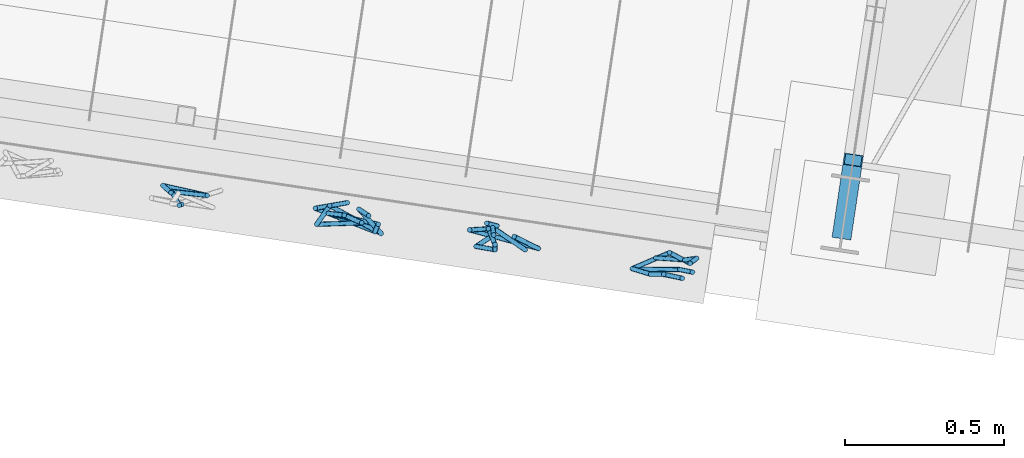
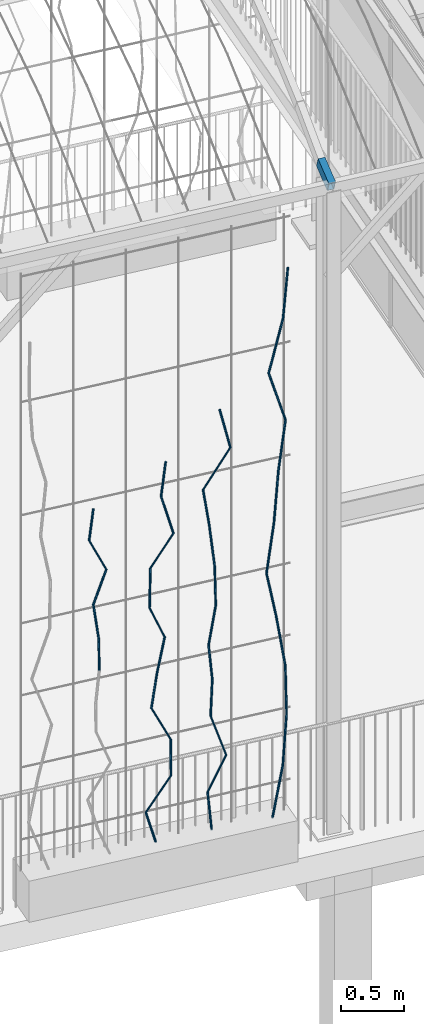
# One storey, part 109 of 143: 39 members, 2 elements without a shape of their own.
"""IFC4 building model written with IfcOpenShell, lengths in metres."""

from ifc_helpers import new_model, si_unit, direction, frame, origin_with_axes, place, context, subcontext, project, spatial, hollow_rectangle, circle, extrude, material, material_profile, profile_set, profile_usage, type_object, element, aggregate, save


model = new_model("IFC4")

# Units and contexts
model_context = context("Model", 3, precision=1e-05, world=origin_with_axes(), true_north=direction((0.0, 1.0)))
body_context = subcontext(model_context, "Body", "Model", "MODEL_VIEW")
ifc_project = project(units=[si_unit("VOLUMEUNIT", "CUBIC_METRE"), si_unit("LENGTHUNIT", "METRE"), si_unit("AREAUNIT", "SQUARE_METRE")], contexts=[model_context])

# Site, building, storey
site_placement = place(None, origin_with_axes())
site = spatial("IfcSite", under=ifc_project, at=site_placement, Name="Lares · Rua das Mercês · artigo 4771")
building_placement = place(site_placement, frame((15.0, 9.7, 15.8), z_axis=(0.0, 0.0, 1.0), x_axis=(0.989015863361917, -0.147809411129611, 0.0)))
building = spatial("IfcBuilding", under=site, at=building_placement, Name="Casa Sobreposta")
storey_placement = place(building_placement, origin_with_axes())
storey = spatial("IfcBuildingStorey", under=building, at=storey_placement, Name="00 · Habitação e estacionamento", Elevation=15.8)

# Assembly, member
assembly_1_placement = place(storey_placement, origin_with_axes())
assembly_1 = element("IfcElementAssembly", 1, at=assembly_1_placement, inside=storey, Name="Pérgola · prolongamento da estufa 6 m", ObjectType="PERGOLA_GREENHOUSE_EXTENSION", PredefinedType="USERDEFINED")
ifc_material_1 = material(Name="Aço pintado / Stahl lackiert", Category="steel")
ifc_material_profile_1 = material_profile(ifc_material_1, hollow_rectangle(XDim=0.06, YDim=0.1, WallThickness=0.004))
ifc_profile_set_1 = profile_set([ifc_material_profile_1], Name="RHS100x60x4")
ifc_profile_usage_1 = profile_usage(ifc_profile_set_1)
member_type_1 = type_object("IfcMemberType", Name="RHS100x60x4 / steel", PredefinedType="NOTDEFINED", material=ifc_profile_set_1)
member_1_placement = place(assembly_1_placement, frame((-3.0, -1.5, 6.23430000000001), z_axis=(0.0, 0.932991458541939, 0.35989851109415), x_axis=(1.0, 0.0, 0.0)))
member_1 = element("IfcMember", 2, at=member_1_placement, type_object=member_type_1, material=ifc_profile_usage_1, Name="Pérgola · arco contínuo com a estufa", context=body_context, shape_type="SweptSolid", body=[
    extrude(hollow_rectangle(XDim=0.06, YDim=0.1, WallThickness=0.004), origin_with_axes(), (0.0, 0.0, 1.0), 0.249032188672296),
])
aggregate(assembly_1, [member_1])

# Assembly, members
assembly_2_placement = place(storey_placement, origin_with_axes())
assembly_2 = element("IfcElementAssembly", 3, at=assembly_2_placement, inside=storey, Name="Fachada sul e pátio · estrutura e trepadeiras", ObjectType="LIVING_SHADE_TRELLIS", PredefinedType="USERDEFINED")
ifc_material_2 = material(Name="Ramos de trepadeiras", Category="wood")
ifc_material_profile_2 = material_profile(ifc_material_2, circle(Radius=0.0075))
ifc_profile_set_2 = profile_set([ifc_material_profile_2], Name="D0.015")
ifc_profile_usage_2 = profile_usage(ifc_profile_set_2)
member_type_2 = type_object("IfcMemberType", Name="D0.015 / vine_wood", PredefinedType="NOTDEFINED", material=ifc_profile_set_2)
member_2_placement = place(assembly_2_placement, frame((-5.07148846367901, -1.71855904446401, 2.21079847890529), z_axis=(-0.0234443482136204, -0.011723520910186, 0.999656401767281), x_axis=(0.99972514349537, -0.00027492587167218, 0.0234427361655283)))
member_2 = element("IfcMember", 4, at=member_2_placement, type_object=member_type_2, material=ifc_profile_usage_2, Name="Trepadeiras · ramo", context=body_context, shape_type="SweptSolid", body=[
    extrude(circle(Radius=0.0075), origin_with_axes(), (0.0, 0.0, 1.0), 0.310239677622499),
])
ifc_profile_usage_3 = profile_usage(ifc_profile_set_2)
member_3_placement = place(assembly_2_placement, frame((-5.07876183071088, -1.72219614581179, 2.52093155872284), z_axis=(-0.0967626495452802, 0.123757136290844, 0.987583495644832), x_axis=(0.787785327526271, 0.615949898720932, 1.09054029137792e-17)))
member_3 = element("IfcMember", 5, at=member_3_placement, type_object=member_type_2, material=ifc_profile_usage_3, Name="Trepadeiras · ramo", context=body_context, shape_type="SweptSolid", body=[
    extrude(circle(Radius=0.0075), origin_with_axes(), (0.0, 0.0, 1.0), 0.31403226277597),
])
ifc_profile_usage_4 = profile_usage(ifc_profile_set_2)
member_4_placement = place(assembly_2_placement, frame((-5.10914842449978, -1.6833324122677, 2.83106463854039), z_axis=(0.341305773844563, 0.0133539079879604, 0.939857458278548), x_axis=(0.0390960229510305, -0.999235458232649, 0.0)))
member_4 = element("IfcMember", 6, at=member_4_placement, type_object=member_type_2, material=ifc_profile_usage_4, Name="Trepadeiras · ramo", context=body_context, shape_type="SweptSolid", body=[
    extrude(circle(Radius=0.0075), origin_with_axes(), (0.0, 0.0, 1.0), 0.329978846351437),
])
ifc_profile_usage_5 = profile_usage(ifc_profile_set_2)
member_5_placement = place(assembly_2_placement, frame((-4.99652473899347, -1.67892590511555, 3.14119771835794), z_axis=(-0.417229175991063, 0.0301594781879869, 0.908300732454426), x_axis=(0.0720970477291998, 0.997397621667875, 0.0)))
member_5 = element("IfcMember", 7, at=member_5_placement, type_object=member_type_2, material=ifc_profile_usage_5, Name="Trepadeiras · ramo", context=body_context, shape_type="SweptSolid", body=[
    extrude(circle(Radius=0.0075), origin_with_axes(), (0.0, 0.0, 1.0), 0.34144316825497),
])
ifc_profile_usage_6 = profile_usage(ifc_profile_set_2)
member_6_placement = place(assembly_2_placement, frame((-5.13898479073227, -1.66862815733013, 3.45133079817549), z_axis=(0.090956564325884, -0.0586912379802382, 0.99412385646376), x_axis=(-0.542189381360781, -0.840256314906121, 7.96559999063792e-18)))
member_6 = element("IfcMember", 8, at=member_6_placement, type_object=member_type_2, material=ifc_profile_usage_6, Name="Trepadeiras · ramo", context=body_context, shape_type="SweptSolid", body=[
    extrude(circle(Radius=0.0075), origin_with_axes(), (0.0, 0.0, 1.0), 0.311966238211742),
])
ifc_profile_usage_7 = profile_usage(ifc_profile_set_2)
member_7_placement = place(assembly_2_placement, frame((-4.55634403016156, -1.63616228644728, 0.35), z_axis=(-0.276433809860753, -0.091900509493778, 0.95662879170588), x_axis=(-0.315473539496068, 0.948934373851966, 0.0)))
member_7 = element("IfcMember", 9, at=member_7_placement, type_object=member_type_2, material=ifc_profile_usage_7, Name="Trepadeiras · ramo", context=body_context, shape_type="SweptSolid", body=[
    extrude(circle(Radius=0.0075), origin_with_axes(), (0.0, 0.0, 1.0), 0.351118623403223),
])
ifc_profile_usage_8 = profile_usage(ifc_profile_set_2)
member_8_placement = place(assembly_2_placement, frame((-4.65340508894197, -1.66843026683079, 0.685890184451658), z_axis=(0.502481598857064, -0.114154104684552, 0.857018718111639), x_axis=(-0.221535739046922, -0.975152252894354, 0.0)))
member_8 = element("IfcMember", 10, at=member_8_placement, type_object=member_type_2, material=ifc_profile_usage_8, Name="Trepadeiras · ramo", context=body_context, shape_type="SweptSolid", body=[
    extrude(circle(Radius=0.0075), origin_with_axes(), (0.0, 0.0, 1.0), 0.391928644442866),
])
ifc_profile_usage_9 = profile_usage(ifc_profile_set_2)
member_9_placement = place(assembly_2_placement, frame((-4.45646815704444, -1.7131705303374, 1.02178036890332), z_axis=(0.0188669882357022, 0.0713857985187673, 0.997270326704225), x_axis=(0.966803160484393, -0.255522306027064, 0.0)))
member_9 = element("IfcMember", 11, at=member_9_placement, type_object=member_type_2, material=ifc_profile_usage_9, Name="Trepadeiras · ramo", context=body_context, shape_type="SweptSolid", body=[
    extrude(circle(Radius=0.0075), origin_with_axes(), (0.0, 0.0, 1.0), 0.336809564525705),
])
ifc_profile_usage_10 = profile_usage(ifc_profile_set_2)
member_10_placement = place(assembly_2_placement, frame((-4.45011357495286, -1.68912711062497, 1.35767055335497), z_axis=(-0.429996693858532, 0.0300139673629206, 0.902331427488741), x_axis=(0.0696310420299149, 0.997572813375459, 0.0)))
member_10 = element("IfcMember", 12, at=member_10_placement, type_object=member_type_2, material=ifc_profile_usage_10, Name="Trepadeiras · ramo", context=body_context, shape_type="SweptSolid", body=[
    extrude(circle(Radius=0.0075), origin_with_axes(), (0.0, 0.0, 1.0), 0.372247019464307),
])
ifc_profile_usage_11 = profile_usage(ifc_profile_set_2)
member_11_placement = place(assembly_2_placement, frame((-4.61017856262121, -1.67795450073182, 1.69356073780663), z_axis=(0.146859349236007, 0.0033807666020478, 0.989151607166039), x_axis=(0.0230143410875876, -0.999735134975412, 0.0)))
member_11 = element("IfcMember", 13, at=member_11_placement, type_object=member_type_2, material=ifc_profile_usage_11, Name="Trepadeiras · ramo", context=body_context, shape_type="SweptSolid", body=[
    extrude(circle(Radius=0.0075), origin_with_axes(), (0.0, 0.0, 1.0), 0.339574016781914),
])
ifc_profile_usage_12 = profile_usage(ifc_profile_set_2)
member_12_placement = place(assembly_2_placement, frame((-4.56030894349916, -1.67680648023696, 2.02945092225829), z_axis=(0.170700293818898, -0.0452708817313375, 0.984282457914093), x_axis=(-0.256345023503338, -0.96658534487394, 0.0)))
member_12 = element("IfcMember", 14, at=member_12_placement, type_object=member_type_2, material=ifc_profile_usage_12, Name="Trepadeiras · ramo", context=body_context, shape_type="SweptSolid", body=[
    extrude(circle(Radius=0.0075), origin_with_axes(), (0.0, 0.0, 1.0), 0.341253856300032),
])
ifc_profile_usage_13 = profile_usage(ifc_profile_set_2)
member_13_placement = place(assembly_2_placement, frame((-4.50205680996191, -1.69225534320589, 2.36534110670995), z_axis=(-0.383356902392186, -0.0703629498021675, 0.920916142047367), x_axis=(-0.180528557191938, 0.983569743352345, 0.0)))
member_13 = element("IfcMember", 15, at=member_13_placement, type_object=member_type_2, material=ifc_profile_usage_13, Name="Trepadeiras · ramo", context=body_context, shape_type="SweptSolid", body=[
    extrude(circle(Radius=0.0075), origin_with_axes(), (0.0, 0.0, 1.0), 0.364734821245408),
])
ifc_profile_usage_14 = profile_usage(ifc_profile_set_2)
member_14_placement = place(assembly_2_placement, frame((-4.64188042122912, -1.71791916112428, 2.7012312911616), z_axis=(0.0946545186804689, 0.187214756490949, 0.977748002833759), x_axis=(0.8924216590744, -0.451202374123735, 0.0)))
member_14 = element("IfcMember", 16, at=member_14_placement, type_object=member_type_2, material=ifc_profile_usage_14, Name="Trepadeiras · ramo", context=body_context, shape_type="SweptSolid", body=[
    extrude(circle(Radius=0.0075), origin_with_axes(), (0.0, 0.0, 1.0), 0.343534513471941),
])
ifc_profile_usage_15 = profile_usage(ifc_profile_set_2)
member_15_placement = place(assembly_2_placement, frame((-4.6093633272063, -1.65360443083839, 3.03712147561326), z_axis=(0.451634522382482, -0.164332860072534, 0.876938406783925), x_axis=(-0.341930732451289, -0.939725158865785, 0.0)))
member_15 = element("IfcMember", 17, at=member_15_placement, type_object=member_type_2, material=ifc_profile_usage_15, Name="Trepadeiras · ramo", context=body_context, shape_type="SweptSolid", body=[
    extrude(circle(Radius=0.0075), origin_with_axes(), (0.0, 0.0, 1.0), 0.383025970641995),
])
ifc_profile_usage_16 = profile_usage(ifc_profile_set_2)
member_16_placement = place(assembly_2_placement, frame((-4.43637557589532, -1.71654818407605, 3.37301166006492), z_axis=(-0.228861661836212, 0.18656509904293, 0.955413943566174), x_axis=(0.631846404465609, 0.775093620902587, -2.24524086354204e-17)))
member_16 = element("IfcMember", 18, at=member_16_placement, type_object=member_type_2, material=ifc_profile_usage_16, Name="Trepadeiras · ramo", context=body_context, shape_type="SweptSolid", body=[
    extrude(circle(Radius=0.0075), origin_with_axes(), (0.0, 0.0, 1.0), 0.35156508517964),
])
ifc_profile_usage_17 = profile_usage(ifc_profile_set_2)
member_17_placement = place(assembly_2_placement, frame((-4.51683534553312, -1.65095840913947, 3.70890184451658), z_axis=(0.0978677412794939, -0.0463181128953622, 0.99412098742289), x_axis=(-0.427782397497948, -0.903881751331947, 0.0)))
member_17 = element("IfcMember", 19, at=member_17_placement, type_object=member_type_2, material=ifc_profile_usage_17, Name="Trepadeiras · ramo", context=body_context, shape_type="SweptSolid", body=[
    extrude(circle(Radius=0.0075), origin_with_axes(), (0.0, 0.0, 1.0), 0.337876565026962),
])
ifc_profile_usage_18 = profile_usage(ifc_profile_set_2)
member_18_placement = place(assembly_2_placement, frame((-4.07927187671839, -1.63851140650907, 0.35), z_axis=(-0.089545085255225, 0.00938715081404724, 0.995938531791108), x_axis=(0.10426023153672, 0.994550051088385, 0.0)))
member_18 = element("IfcMember", 20, at=member_18_placement, type_object=member_type_2, material=ifc_profile_usage_18, Name="Trepadeiras · ramo", context=body_context, shape_type="SweptSolid", body=[
    extrude(circle(Radius=0.0075), origin_with_axes(), (0.0, 0.0, 1.0), 0.372705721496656),
])
ifc_profile_usage_19 = profile_usage(ifc_profile_set_2)
member_19_placement = place(assembly_2_placement, frame((-4.11264584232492, -1.63501276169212, 0.721191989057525), z_axis=(0.333010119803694, -0.163515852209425, 0.928637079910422), x_axis=(-0.440756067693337, -0.897626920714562, 0.0)))
member_19 = element("IfcMember", 21, at=member_19_placement, type_object=member_type_2, material=ifc_profile_usage_19, Name="Trepadeiras · ramo", context=body_context, shape_type="SweptSolid", body=[
    extrude(circle(Radius=0.0075), origin_with_axes(), (0.0, 0.0, 1.0), 0.399716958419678),
])
ifc_profile_usage_20 = profile_usage(ifc_profile_set_2)
member_20_placement = place(assembly_2_placement, frame((-3.97953605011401, -1.70037282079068, 1.09238397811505), z_axis=(-0.285562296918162, 0.137481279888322, 0.948447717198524), x_axis=(0.433785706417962, 0.901016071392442, 0.0)))
member_20 = element("IfcMember", 22, at=member_20_placement, type_object=member_type_2, material=ifc_profile_usage_20, Name="Trepadeiras · ramo", context=body_context, shape_type="SweptSolid", body=[
    extrude(circle(Radius=0.0075), origin_with_axes(), (0.0, 0.0, 1.0), 0.391367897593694),
])
ifc_profile_usage_21 = profile_usage(ifc_profile_set_2)
member_21_placement = place(assembly_2_placement, frame((-4.0912959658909, -1.64656706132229, 1.46357596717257), z_axis=(0.0152066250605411, -0.0596993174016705, 0.998100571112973), x_axis=(-0.969056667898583, -0.246838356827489, 0.0)))
member_21 = element("IfcMember", 23, at=member_21_placement, type_object=member_type_2, material=ifc_profile_usage_21, Name="Trepadeiras · ramo", context=body_context, shape_type="SweptSolid", body=[
    extrude(circle(Radius=0.0075), origin_with_axes(), (0.0, 0.0, 1.0), 0.371898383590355),
])
ifc_profile_usage_22 = profile_usage(ifc_profile_set_2)
member_22_placement = place(assembly_2_placement, frame((-4.08564064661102, -1.66876914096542, 1.8347679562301), z_axis=(-0.130512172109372, -0.116153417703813, 0.984619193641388), x_axis=(-0.664819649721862, 0.747003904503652, -9.77620742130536e-18)))
member_22 = element("IfcMember", 24, at=member_22_placement, type_object=member_type_2, material=ifc_profile_usage_22, Name="Trepadeiras · ramo", context=body_context, shape_type="SweptSolid", body=[
    extrude(circle(Radius=0.0075), origin_with_axes(), (0.0, 0.0, 1.0), 0.376990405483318),
])
ifc_profile_usage_23 = profile_usage(ifc_profile_set_2)
member_23_placement = place(assembly_2_placement, frame((-4.13484248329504, -1.71255786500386, 2.20595994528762), z_axis=(0.161271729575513, -0.00372461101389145, 0.986903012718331), x_axis=(-0.0230890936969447, -0.99973341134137, 0.0)))
member_23 = element("IfcMember", 25, at=member_23_placement, type_object=member_type_2, material=ifc_profile_usage_23, Name="Trepadeiras · ramo", context=body_context, shape_type="SweptSolid", body=[
    extrude(circle(Radius=0.0075), origin_with_axes(), (0.0, 0.0, 1.0), 0.376118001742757),
])
ifc_profile_usage_24 = profile_usage(ifc_profile_set_2)
member_24_placement = place(assembly_2_placement, frame((-4.0741852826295, -1.71395875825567, 2.57715193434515), z_axis=(-0.00656626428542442, 0.0434886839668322, 0.999032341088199), x_axis=(0.99997844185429, 0.000285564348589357, 0.00656005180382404)))
member_24 = element("IfcMember", 26, at=member_24_placement, type_object=member_type_2, material=ifc_profile_usage_24, Name="Trepadeiras · ramo", context=body_context, shape_type="SweptSolid", body=[
    extrude(circle(Radius=0.0075), origin_with_axes(), (0.0, 0.0, 1.0), 0.371551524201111),
])
ifc_profile_usage_25 = profile_usage(ifc_profile_set_2)
member_25_placement = place(assembly_2_placement, frame((-4.07662498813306, -1.69780047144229, 2.94834392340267), z_axis=(-0.074266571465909, 0.123113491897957, 0.989609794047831), x_axis=(0.856267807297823, 0.516532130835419, 0.0)))
member_25 = element("IfcMember", 27, at=member_25_placement, type_object=member_type_2, material=ifc_profile_usage_25, Name="Trepadeiras · ramo", context=body_context, shape_type="SweptSolid", body=[
    extrude(circle(Radius=0.0075), origin_with_axes(), (0.0, 0.0, 1.0), 0.375089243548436),
])
ifc_profile_usage_26 = profile_usage(ifc_profile_set_2)
member_26_placement = place(assembly_2_placement, frame((-4.10448158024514, -1.65162192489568, 3.3195359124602), z_axis=(-0.154338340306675, -0.0328328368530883, 0.987472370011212), x_axis=(-0.20807667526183, 0.978112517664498, 0.0)))
member_26 = element("IfcMember", 28, at=member_26_placement, type_object=member_type_2, material=ifc_profile_usage_26, Name="Trepadeiras · ramo", context=body_context, shape_type="SweptSolid", body=[
    extrude(circle(Radius=0.0075), origin_with_axes(), (0.0, 0.0, 1.0), 0.375901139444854),
])
ifc_profile_usage_27 = profile_usage(ifc_profile_set_2)
member_27_placement = place(assembly_2_placement, frame((-4.16249753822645, -1.66396382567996, 3.69072790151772), z_axis=(0.514081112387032, -0.0596918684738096, 0.855662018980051), x_axis=(-0.115338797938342, -0.993326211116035, 0.0)))
member_27 = element("IfcMember", 29, at=member_27_placement, type_object=member_type_2, material=ifc_profile_usage_27, Name="Trepadeiras · ramo", context=body_context, shape_type="SweptSolid", body=[
    extrude(circle(Radius=0.0075), origin_with_axes(), (0.0, 0.0, 1.0), 0.433806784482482),
])
ifc_profile_usage_28 = profile_usage(ifc_profile_set_2)
member_28_placement = place(assembly_2_placement, frame((-3.93948566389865, -1.68985856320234, 4.06191989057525), z_axis=(-0.213455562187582, 0.0677286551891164, 0.974602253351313), x_axis=(0.302437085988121, 0.953169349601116, 0.0)))
member_28 = element("IfcMember", 30, at=member_28_placement, type_object=member_type_2, material=ifc_profile_usage_28, Name="Trepadeiras · ramo", context=body_context, shape_type="SweptSolid", body=[
    extrude(circle(Radius=0.0075), origin_with_axes(), (0.0, 0.0, 1.0), 0.380865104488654),
])
ifc_profile_usage_29 = profile_usage(ifc_profile_set_2)
member_29_placement = place(assembly_2_placement, frame((-3.56958320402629, -1.66459777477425, 0.35), z_axis=(0.186085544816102, 0.0151258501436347, 0.982417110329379), x_axis=(0.0810171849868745, -0.99671270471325, 0.0)))
member_29 = element("IfcMember", 31, at=member_29_placement, type_object=member_type_2, material=ifc_profile_usage_29, Name="Trepadeiras · ramo", context=body_context, shape_type="SweptSolid", body=[
    extrude(circle(Radius=0.0075), origin_with_axes(), (0.0, 0.0, 1.0), 0.493502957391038),
])
ifc_profile_usage_30 = profile_usage(ifc_profile_set_2)
member_30_placement = place(assembly_2_placement, frame((-3.47774943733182, -1.65713312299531, 0.834825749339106), z_axis=(0.0738530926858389, 0.0207066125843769, 0.997054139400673), x_axis=(0.269965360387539, -0.96287003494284, 0.0)))
member_30 = element("IfcMember", 32, at=member_30_placement, type_object=member_type_2, material=ifc_profile_usage_30, Name="Trepadeiras · ramo", context=body_context, shape_type="SweptSolid", body=[
    extrude(circle(Radius=0.0075), origin_with_axes(), (0.0, 0.0, 1.0), 0.486258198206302),
])
ifc_profile_usage_31 = profile_usage(ifc_profile_set_2)
member_31_placement = place(assembly_2_placement, frame((-3.44183776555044, -1.64706436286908, 1.31965149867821), z_axis=(-0.0373703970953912, -0.0379373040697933, 0.998581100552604), x_axis=(-0.712409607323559, 0.701763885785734, 0.0)))
member_31 = element("IfcMember", 33, at=member_31_placement, type_object=member_type_2, material=ifc_profile_usage_31, Name="Trepadeiras · ramo", context=body_context, shape_type="SweptSolid", body=[
    extrude(circle(Radius=0.0075), origin_with_axes(), (0.0, 0.0, 1.0), 0.485514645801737),
])
ifc_profile_usage_32 = profile_usage(ifc_profile_set_2)
member_32_placement = place(assembly_2_placement, frame((-3.45998164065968, -1.6654834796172, 1.80447724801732), z_axis=(-0.140931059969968, 0.0483273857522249, 0.988839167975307), x_axis=(0.324373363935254, 0.945929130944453, 0.0)))
member_32 = element("IfcMember", 34, at=member_32_placement, type_object=member_type_2, material=ifc_profile_usage_32, Name="Trepadeiras · ramo", context=body_context, shape_type="SweptSolid", body=[
    extrude(circle(Radius=0.0075), origin_with_axes(), (0.0, 0.0, 1.0), 0.490297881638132),
])
ifc_profile_usage_33 = profile_usage(ifc_profile_set_2)
member_33_placement = place(assembly_2_placement, frame((-3.52907984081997, -1.64178866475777, 2.28930299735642), z_axis=(-0.217013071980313, -0.13403938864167, 0.966922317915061), x_axis=(-0.525498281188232, 0.850794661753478, 0.0)))
member_33 = element("IfcMember", 35, at=member_33_placement, type_object=member_type_2, material=ifc_profile_usage_33, Name="Trepadeiras · ramo", context=body_context, shape_type="SweptSolid", body=[
    extrude(circle(Radius=0.0075), origin_with_axes(), (0.0, 0.0, 1.0), 0.501411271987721),
])
ifc_profile_usage_34 = profile_usage(ifc_profile_set_2)
member_34_placement = place(assembly_2_placement, frame((-3.63789264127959, -1.70899752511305, 2.77412874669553), z_axis=(0.12363822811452, -0.0183336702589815, 0.992157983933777), x_axis=(-0.146680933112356, -0.989183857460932, 0.0)))
member_34 = element("IfcMember", 36, at=member_34_placement, type_object=member_type_2, material=ifc_profile_usage_34, Name="Trepadeiras · ramo", context=body_context, shape_type="SweptSolid", body=[
    extrude(circle(Radius=0.0075), origin_with_axes(), (0.0, 0.0, 1.0), 0.488657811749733),
])
ifc_profile_usage_35 = profile_usage(ifc_profile_set_2)
member_35_placement = place(assembly_2_placement, frame((-3.57747585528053, -1.71795641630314, 3.25895449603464), z_axis=(0.0824881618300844, 0.0132015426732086, 0.996504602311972), x_axis=(0.158030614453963, -0.987434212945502, 0.0)))
member_35 = element("IfcMember", 37, at=member_35_placement, type_object=member_type_2, material=ifc_profile_usage_35, Name="Trepadeiras · ramo", context=body_context, shape_type="SweptSolid", body=[
    extrude(circle(Radius=0.0075), origin_with_axes(), (0.0, 0.0, 1.0), 0.486526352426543),
])
ifc_profile_usage_36 = profile_usage(ifc_profile_set_2)
member_36_placement = place(assembly_2_placement, frame((-3.53734319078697, -1.71153351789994, 3.74378024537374), z_axis=(0.122461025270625, -0.00831900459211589, 0.992438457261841), x_axis=(-0.0677756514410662, -0.997700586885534, 0.0)))
member_36 = element("IfcMember", 38, at=member_36_placement, type_object=member_type_2, material=ifc_profile_usage_36, Name="Trepadeiras · ramo", context=body_context, shape_type="SweptSolid", body=[
    extrude(circle(Radius=0.0075), origin_with_axes(), (0.0, 0.0, 1.0), 0.488519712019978),
])
ifc_profile_usage_37 = profile_usage(ifc_profile_set_2)
member_37_placement = place(assembly_2_placement, frame((-3.47751856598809, -1.71559751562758, 4.22860599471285), z_axis=(-0.280111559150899, 0.0149804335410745, 0.959850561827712), x_axis=(0.0534039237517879, 0.998572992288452, 0.0)))
member_37 = element("IfcMember", 39, at=member_37_placement, type_object=member_type_2, material=ifc_profile_usage_37, Name="Trepadeiras · ramo", context=body_context, shape_type="SweptSolid", body=[
    extrude(circle(Radius=0.0075), origin_with_axes(), (0.0, 0.0, 1.0), 0.505105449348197),
])
ifc_profile_usage_38 = profile_usage(ifc_profile_set_2)
member_38_placement = place(assembly_2_placement, frame((-3.61900444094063, -1.70803081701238, 4.71343174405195), z_axis=(0.258565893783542, 0.0363178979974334, 0.965310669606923), x_axis=(0.139093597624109, -0.990279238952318, 0.0)))
member_38 = element("IfcMember", 40, at=member_38_placement, type_object=member_type_2, material=ifc_profile_usage_38, Name="Trepadeiras · ramo", context=body_context, shape_type="SweptSolid", body=[
    extrude(circle(Radius=0.0075), origin_with_axes(), (0.0, 0.0, 1.0), 0.502248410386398),
])
ifc_profile_usage_39 = profile_usage(ifc_profile_set_2)
member_39_placement = place(assembly_2_placement, frame((-3.48914013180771, -1.6897902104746, 5.19825749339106), z_axis=(0.0834842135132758, -0.00407642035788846, 0.996500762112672), x_axis=(-0.0487705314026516, -0.998810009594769, 0.0)))
member_39 = element("IfcMember", 41, at=member_39_placement, type_object=member_type_2, material=ifc_profile_usage_39, Name="Trepadeiras · ramo", context=body_context, shape_type="SweptSolid", body=[
    extrude(circle(Radius=0.0075), origin_with_axes(), (0.0, 0.0, 1.0), 0.486528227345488),
])
aggregate(assembly_2, [member_2, member_3, member_4, member_5, member_6, member_7, member_8, member_9, member_10, member_11, member_12, member_13, member_14, member_15, member_16, member_17, member_18, member_19, member_20, member_21, member_22, member_23, member_24, member_25, member_26, member_27, member_28, member_29, member_30, member_31, member_32, member_33, member_34, member_35, member_36, member_37, member_38, member_39])

save(model, "model.ifc")
